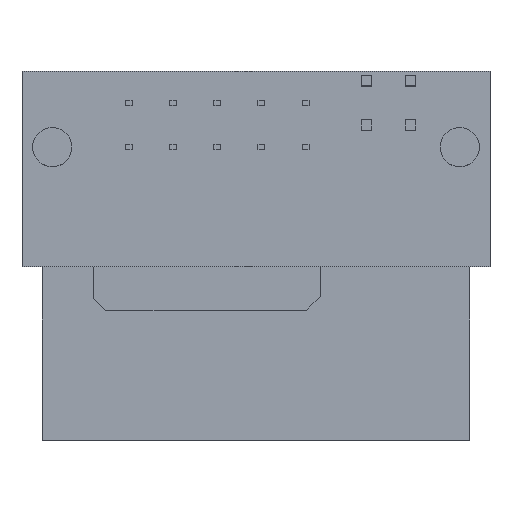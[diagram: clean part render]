
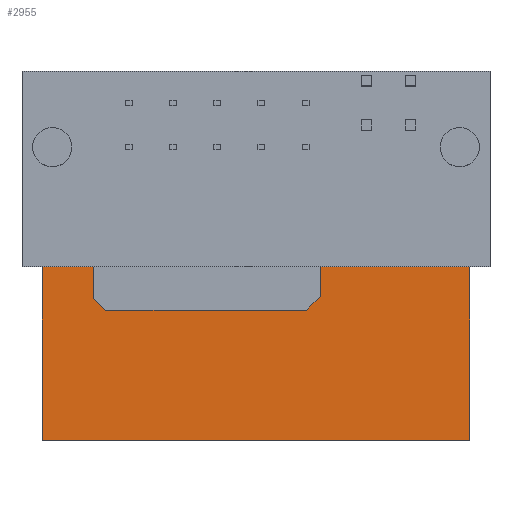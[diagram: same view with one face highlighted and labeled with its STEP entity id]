
A CAD part, top view. The second image highlights one B-rep face of the part: STEP entity #2955.
In plain terms, the highlighted planar face has unit normal (0, 0, 1).
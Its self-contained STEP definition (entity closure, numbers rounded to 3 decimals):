
#1299 = EDGE_CURVE ( 'NONE', #3230, #3174, #17725, .T. ) ;
#1301 = EDGE_CURVE ( 'NONE', #3279, #3457, #17747, .T. ) ;
#2055 = ORIENTED_EDGE ( 'NONE', *, *, #20020, .F. ) ;
#2333 = EDGE_LOOP ( 'NONE', ( #6250, #6246, #6160, #6161, #6254, #18862, #6193, #2055, #18657, #6191 ) ) ;
#2955 = ADVANCED_FACE ( 'NONE', ( #17940 ), #17943, .T. ) ;
#3108 = VERTEX_POINT ( 'NONE', #18171 ) ;
#3109 = VERTEX_POINT ( 'NONE', #18173 ) ;
#3112 = VERTEX_POINT ( 'NONE', #18177 ) ;
#3113 = VERTEX_POINT ( 'NONE', #18179 ) ;
#3115 = VERTEX_POINT ( 'NONE', #18181 ) ;
#3122 = VERTEX_POINT ( 'NONE', #18190 ) ;
#3174 = VERTEX_POINT ( 'NONE', #18274 ) ;
#3230 = VERTEX_POINT ( 'NONE', #18365 ) ;
#3279 = VERTEX_POINT ( 'NONE', #18442 ) ;
#3457 = VERTEX_POINT ( 'NONE', #18676 ) ;
#6160 = ORIENTED_EDGE ( 'NONE', *, *, #20161, .T. ) ;
#6161 = ORIENTED_EDGE ( 'NONE', *, *, #20160, .T. ) ;
#6191 = ORIENTED_EDGE ( 'NONE', *, *, #20162, .F. ) ;
#6193 = ORIENTED_EDGE ( 'NONE', *, *, #1299, .T. ) ;
#6246 = ORIENTED_EDGE ( 'NONE', *, *, #20158, .T. ) ;
#6250 = ORIENTED_EDGE ( 'NONE', *, *, #1301, .T. ) ;
#6254 = ORIENTED_EDGE ( 'NONE', *, *, #20145, .T. ) ;
#7553 = VECTOR ( 'NONE', #17743, 1000. ) ;
#7556 = VECTOR ( 'NONE', #17751, 1000. ) ;
#9001 = LINE ( 'NONE', #9011, #14832 ) ;
#9011 = CARTESIAN_POINT ( 'NONE',  ( -44.648, 16.273, 0.945 ) ) ;
#9012 = DIRECTION ( 'NONE',  ( -0.707, 0.707, 0. ) ) ;
#9045 = LINE ( 'NONE', #9046, #14849 ) ;
#9046 = CARTESIAN_POINT ( 'NONE',  ( -45.348, 21.413, 0.945 ) ) ;
#9047 = DIRECTION ( 'NONE',  ( 0., -1., 0. ) ) ;
#9051 = LINE ( 'NONE', #9052, #14851 ) ;
#9052 = CARTESIAN_POINT ( 'NONE',  ( -32.318, 25.113, 0.945 ) ) ;
#9053 = DIRECTION ( 'NONE',  ( 0., -1., 0. ) ) ;
#9057 = LINE ( 'NONE', #9058, #14853 ) ;
#9058 = CARTESIAN_POINT ( 'NONE',  ( -35.658, 16.273, 0.945 ) ) ;
#9059 = DIRECTION ( 'NONE',  ( -1., 0., 0. ) ) ;
#9060 = LINE ( 'NONE', #9061, #14854 ) ;
#9061 = CARTESIAN_POINT ( 'NONE',  ( -32.318, 17.073, 0.945 ) ) ;
#9062 = DIRECTION ( 'NONE',  ( -0.707, -0.707, 0. ) ) ;
#9063 = LINE ( 'NONE', #9064, #14855 ) ;
#9064 = CARTESIAN_POINT ( 'NONE',  ( -23.738, 18.773, 0.945 ) ) ;
#9065 = DIRECTION ( 'NONE',  ( 0., -1., 0. ) ) ;
#14693 = VECTOR ( 'NONE', #16056, 1000. ) ;
#14695 = VECTOR ( 'NONE', #16069, 1000. ) ;
#14832 = VECTOR ( 'NONE', #9012, 1000. ) ;
#14849 = VECTOR ( 'NONE', #9047, 1000. ) ;
#14851 = VECTOR ( 'NONE', #9053, 1000. ) ;
#14853 = VECTOR ( 'NONE', #9059, 1000. ) ;
#14854 = VECTOR ( 'NONE', #9062, 1000. ) ;
#14855 = VECTOR ( 'NONE', #9065, 1000. ) ;
#16052 = LINE ( 'NONE', #16054, #14693 ) ;
#16054 = CARTESIAN_POINT ( 'NONE',  ( -48.298, 8.773, 0.945 ) ) ;
#16056 = DIRECTION ( 'NONE',  ( 0., 1., 0. ) ) ;
#16064 = LINE ( 'NONE', #16067, #14695 ) ;
#16067 = CARTESIAN_POINT ( 'NONE',  ( -48.268, 8.773, 0.945 ) ) ;
#16069 = DIRECTION ( 'NONE',  ( 1., 0., 0. ) ) ;
#17725 = LINE ( 'NONE', #17740, #7553 ) ;
#17740 = CARTESIAN_POINT ( 'NONE',  ( -22.568, 18.773, 0.945 ) ) ;
#17743 = DIRECTION ( 'NONE',  ( -1., 0., 0. ) ) ;
#17747 = LINE ( 'NONE', #17749, #7556 ) ;
#17749 = CARTESIAN_POINT ( 'NONE',  ( -23.708, 18.773, 0.945 ) ) ;
#17751 = DIRECTION ( 'NONE',  ( -1., 0., 0. ) ) ;
#17940 = FACE_OUTER_BOUND ( 'NONE', #2333, .T. ) ;
#17943 = PLANE ( 'NONE',  #20959 ) ;
#17967 = CARTESIAN_POINT ( 'NONE',  ( -33.478, 30.013, 0.945 ) ) ;
#17969 = DIRECTION ( 'NONE',  ( 0., 0., 1. ) ) ;
#17971 = DIRECTION ( 'NONE',  ( 1., 0., 0. ) ) ;
#18171 = CARTESIAN_POINT ( 'NONE',  ( -45.348, 16.973, 0.945 ) ) ;
#18173 = CARTESIAN_POINT ( 'NONE',  ( -32.318, 17.073, 0.945 ) ) ;
#18177 = CARTESIAN_POINT ( 'NONE',  ( -23.738, 8.773, 0.945 ) ) ;
#18179 = CARTESIAN_POINT ( 'NONE',  ( -44.648, 16.273, 0.945 ) ) ;
#18181 = CARTESIAN_POINT ( 'NONE',  ( -48.298, 8.773, 0.945 ) ) ;
#18190 = CARTESIAN_POINT ( 'NONE',  ( -33.118, 16.273, 0.945 ) ) ;
#18274 = CARTESIAN_POINT ( 'NONE',  ( -48.298, 18.773, 0.945 ) ) ;
#18365 = CARTESIAN_POINT ( 'NONE',  ( -45.348, 18.773, 0.945 ) ) ;
#18442 = CARTESIAN_POINT ( 'NONE',  ( -23.738, 18.773, 0.945 ) ) ;
#18657 = ORIENTED_EDGE ( 'NONE', *, *, #20022, .T. ) ;
#18676 = CARTESIAN_POINT ( 'NONE',  ( -32.318, 18.773, 0.945 ) ) ;
#18862 = ORIENTED_EDGE ( 'NONE', *, *, #20156, .F. ) ;
#20020 = EDGE_CURVE ( 'NONE', #3115, #3174, #16052, .T. ) ;
#20022 = EDGE_CURVE ( 'NONE', #3115, #3112, #16064, .T. ) ;
#20145 = EDGE_CURVE ( 'NONE', #3113, #3108, #9001, .T. ) ;
#20156 = EDGE_CURVE ( 'NONE', #3230, #3108, #9045, .T. ) ;
#20158 = EDGE_CURVE ( 'NONE', #3457, #3109, #9051, .T. ) ;
#20160 = EDGE_CURVE ( 'NONE', #3122, #3113, #9057, .T. ) ;
#20161 = EDGE_CURVE ( 'NONE', #3109, #3122, #9060, .T. ) ;
#20162 = EDGE_CURVE ( 'NONE', #3279, #3112, #9063, .T. ) ;
#20959 = AXIS2_PLACEMENT_3D ( 'NONE', #17967, #17969, #17971 ) ;
